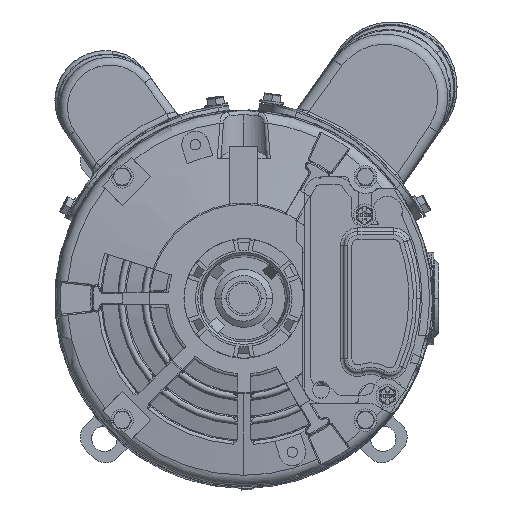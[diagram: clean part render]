
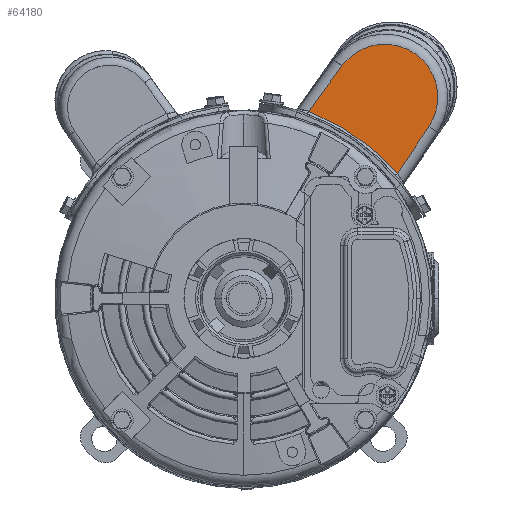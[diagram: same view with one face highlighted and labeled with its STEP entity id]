
A CAD part, top view. The second image highlights one B-rep face of the part: STEP entity #64180.
In plain terms, the highlighted planar face has unit normal (0, 0, 1).
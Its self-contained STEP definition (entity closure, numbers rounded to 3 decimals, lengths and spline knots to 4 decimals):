
#9715 = CARTESIAN_POINT ( 'NONE',  ( 0.8964, 2.6942, 9.7536 ) ) ;
#10732 = EDGE_LOOP ( 'NONE', ( #127533, #120466, #119467, #83090 ) ) ;
#11169 = AXIS2_PLACEMENT_3D ( 'NONE', #121650, #21209, #51401 ) ;
#11229 = PLANE ( 'NONE',  #11169 ) ;
#14596 = EDGE_CURVE ( 'NONE', #15278, #57058, #111281, .T. ) ;
#15240 = CIRCLE ( 'NONE', #129506, 0.7896 ) ;
#15278 = VERTEX_POINT ( 'NONE', #104111 ) ;
#15991 = CARTESIAN_POINT ( 'NONE',  ( 2.0992, 2.9979, 9.7536 ) ) ;
#21209 = DIRECTION ( 'NONE',  ( 0., 0., 1. ) ) ;
#24670 = CARTESIAN_POINT ( 'NONE',  ( 2.7561, 2.5598, 9.7536 ) ) ;
#26715 = LINE ( 'NONE', #9715, #83190 ) ;
#34875 = EDGE_CURVE ( 'NONE', #123601, #15278, #26715, .T. ) ;
#41971 = CARTESIAN_POINT ( 'NONE',  ( 1.4628, 3.4653, 9.7536 ) ) ;
#43744 = DIRECTION ( 'NONE',  ( 0.819, -0.574, 0. ) ) ;
#51322 = FACE_OUTER_BOUND ( 'NONE', #10732, .T. ) ;
#51401 = DIRECTION ( 'NONE',  ( 0.819, -0.574, 0. ) ) ;
#51858 = LINE ( 'NONE', #63049, #84894 ) ;
#53170 = EDGE_CURVE ( 'NONE', #71492, #123601, #15240, .T. ) ;
#57058 = VERTEX_POINT ( 'NONE', #87839 ) ;
#60975 = DIRECTION ( 'NONE',  ( 0., 0., 1. ) ) ;
#63049 = CARTESIAN_POINT ( 'NONE',  ( 2.7561, 2.5598, 9.7536 ) ) ;
#64180 = ADVANCED_FACE ( 'NONE', ( #51322 ), #11229, .T. ) ;
#70666 = AXIS2_PLACEMENT_3D ( 'NONE', #124940, #103831, #43744 ) ;
#71492 = VERTEX_POINT ( 'NONE', #24670 ) ;
#80660 = DIRECTION ( 'NONE',  ( -0.592, -0.806, 0. ) ) ;
#83090 = ORIENTED_EDGE ( 'NONE', *, *, #53170, .T. ) ;
#83190 = VECTOR ( 'NONE', #80660, 39.3701 ) ;
#84894 = VECTOR ( 'NONE', #101626, 39.3701 ) ;
#87839 = CARTESIAN_POINT ( 'NONE',  ( 2.2893, 1.8601, 9.7536 ) ) ;
#101626 = DIRECTION ( 'NONE',  ( 0.555, 0.832, 0. ) ) ;
#103831 = DIRECTION ( 'NONE',  ( 0., 0., -1. ) ) ;
#104111 = CARTESIAN_POINT ( 'NONE',  ( 0.9649, 2.7874, 9.7536 ) ) ;
#111281 = CIRCLE ( 'NONE', #70666, 3.317 ) ;
#111834 = DIRECTION ( 'NONE',  ( 0.819, -0.574, 0. ) ) ;
#119467 = ORIENTED_EDGE ( 'NONE', *, *, #123623, .T. ) ;
#120466 = ORIENTED_EDGE ( 'NONE', *, *, #14596, .T. ) ;
#121650 = CARTESIAN_POINT ( 'NONE',  ( -0.2181, -0.3114, 9.7536 ) ) ;
#123601 = VERTEX_POINT ( 'NONE', #41971 ) ;
#123623 = EDGE_CURVE ( 'NONE', #57058, #71492, #51858, .T. ) ;
#124940 = CARTESIAN_POINT ( 'NONE',  ( -0.2181, -0.3114, 9.7536 ) ) ;
#127533 = ORIENTED_EDGE ( 'NONE', *, *, #34875, .T. ) ;
#129506 = AXIS2_PLACEMENT_3D ( 'NONE', #15991, #60975, #111834 ) ;
